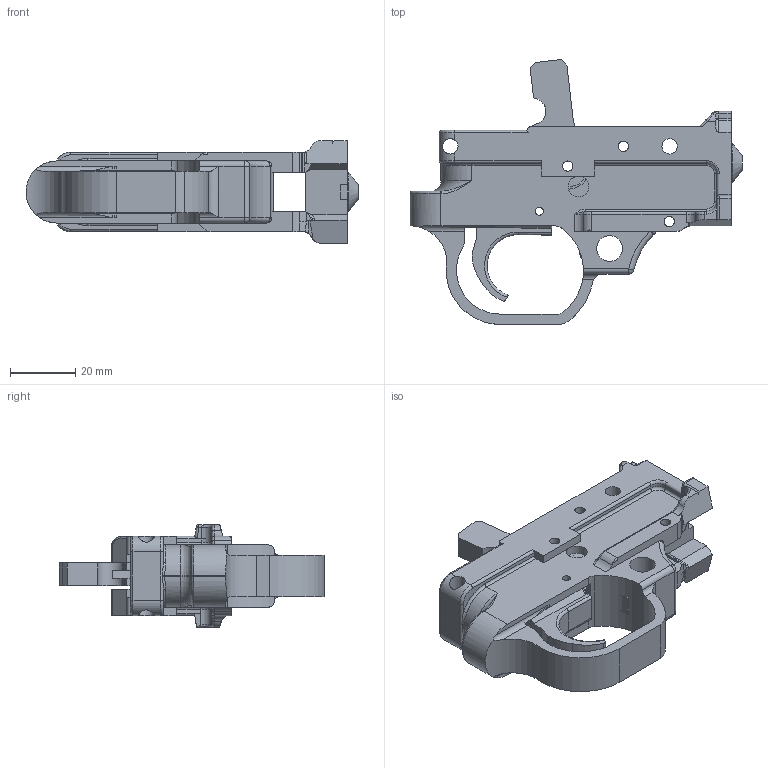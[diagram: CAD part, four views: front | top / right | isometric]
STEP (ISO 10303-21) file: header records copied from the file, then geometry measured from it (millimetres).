
FILE_DESCRIPTION((''),'2;1');
FILE_NAME('E:\PROJECTS\PERS.PROJECTS\Gray Area\Ruger10-22\Trigger Housing Assy\Trigger Group Complete.stp','2012-02-05T17:23:26',('Bob Clark'),(''),'Autodesk Inventor 2011','Autodesk Inventor 2011','');
FILE_SCHEMA(('AUTOMOTIVE_DESIGN { 1 0 10303 214 1 1 1 1 }'));
Length unit declared in the file: inch
Products named in the file (6): Trigger Group Complete; Trigger Housing; Trigger; Hammer; Hammer Bushing; Sear
Assembly tree (6 placements, depth 2):
  Trigger Group Complete
    Trigger Housing
    Trigger
    Hammer
    Hammer Bushing  x2
    Sear
Bounding box: 102.03 x 81.46 x 31.6 mm (x, y, z)
Volume: 46005.5 mm3; surface area: 26318.8 mm2
Topology: 6 solids, 6 shells, 364 faces, 1003 edges, 637 vertices
Faces by surface type: plane 157, cylinder 150, torus 31, bspline 19, sphere 6, cone 1
Full cylindrical faces by diameter (mm): 2.159 x2, 2.438 x2, 3.175 x8, 3.2 x1, 3.344 x1, 3.759 x1, 3.975 x2, 4.763 x3, 4.877 x1, 5.461 x1, 5.486 x2, 6.35 x1, 7.823 x2, 7.938 x1, 12.192 x1, 12.7 x2
Entity records: 12218 total; most frequent: CARTESIAN_POINT 2937, DIRECTION 1910, ORIENTED_EDGE 1888, EDGE_CURVE 944, AXIS2_PLACEMENT_3D 694, VERTEX_POINT 618, VECTOR 522, LINE 522
